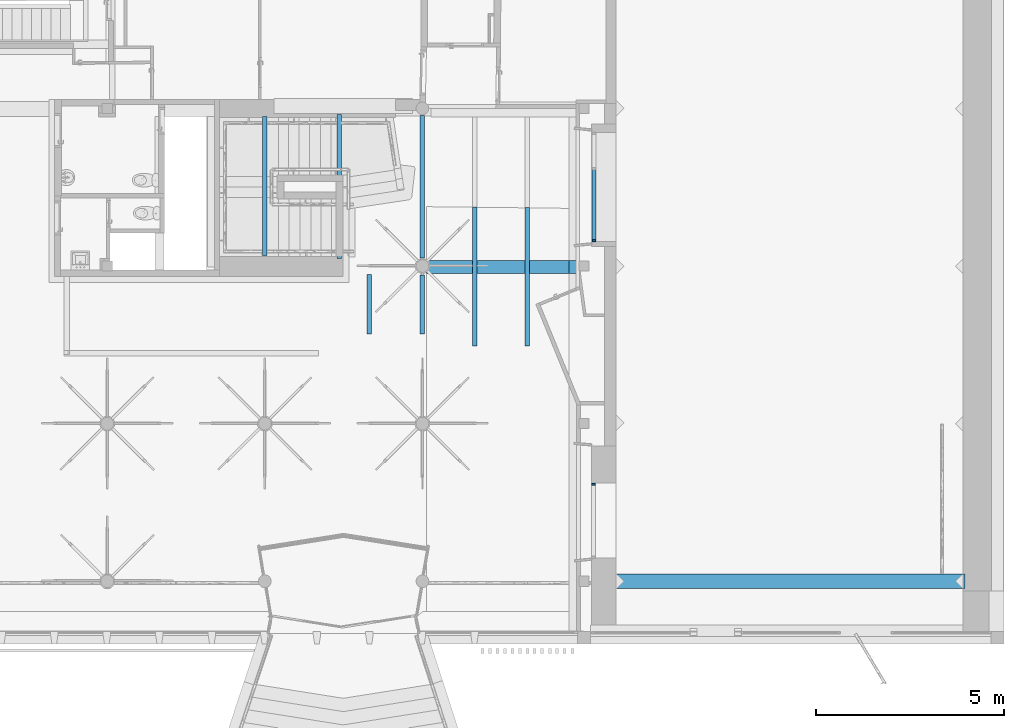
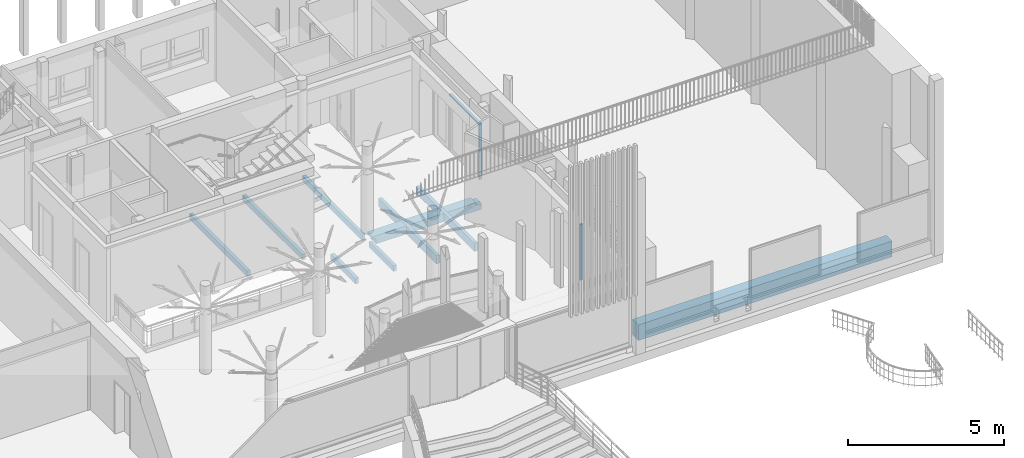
# One storey, part 7 of 65: 9 beams, 3 members, 2 elements without a shape of their own.
"""IFC4 building model written with IfcOpenShell, lengths in metres."""

from ifc_helpers import new_model, entity, si_unit, converted_unit, derived_unit, direction, frame, origin, place, context, subcontext, project, spatial, indexed_curve, outline, extrude, source, transform, mapped, material, type_object, type_shapes, element, aggregate, save


model = new_model("IFC4")

# Units and contexts
model_context = context("Model", 3, precision=1e-05, world=origin(), true_north=direction((6.12303176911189e-17, 1.0)))
body_context = subcontext(model_context, "Body", "Model", "MODEL_VIEW")
ifc_project = project(units=[si_unit("LENGTHUNIT", "METRE"), si_unit("AREAUNIT", "SQUARE_METRE"), si_unit("VOLUMEUNIT", "CUBIC_METRE"), converted_unit("PLANEANGLEUNIT", "DEGREE", entity("IfcRatioMeasure", 0.0174532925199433), si_unit("PLANEANGLEUNIT", "RADIAN"), dimensions=[0, 0, 0, 0, 0, 0, 0]), si_unit("MASSUNIT", "GRAM", prefix="KILO"), derived_unit("MASSDENSITYUNIT", [(si_unit("MASSUNIT", "GRAM", prefix="KILO"), 1), (si_unit("LENGTHUNIT", "METRE"), -3)]), derived_unit("MOMENTOFINERTIAUNIT", [(si_unit("LENGTHUNIT", "METRE"), 4)]), si_unit("TIMEUNIT", "SECOND"), si_unit("FREQUENCYUNIT", "HERTZ"), si_unit("THERMODYNAMICTEMPERATUREUNIT", "DEGREE_CELSIUS"), derived_unit("THERMALTRANSMITTANCEUNIT", [(si_unit("MASSUNIT", "GRAM", prefix="KILO"), 1), (si_unit("THERMODYNAMICTEMPERATUREUNIT", "KELVIN"), -1), (si_unit("TIMEUNIT", "SECOND"), -3)]), derived_unit("VOLUMETRICFLOWRATEUNIT", [(si_unit("LENGTHUNIT", "METRE"), 3), (si_unit("TIMEUNIT", "SECOND"), -1)]), si_unit("ELECTRICCURRENTUNIT", "AMPERE"), si_unit("ELECTRICVOLTAGEUNIT", "VOLT"), si_unit("POWERUNIT", "WATT"), si_unit("FORCEUNIT", "NEWTON", prefix="KILO"), si_unit("ILLUMINANCEUNIT", "LUX"), si_unit("LUMINOUSFLUXUNIT", "LUMEN"), si_unit("LUMINOUSINTENSITYUNIT", "CANDELA"), derived_unit("USERDEFINED", [(si_unit("MASSUNIT", "GRAM", prefix="KILO"), -1), (si_unit("LENGTHUNIT", "METRE"), -2), (si_unit("TIMEUNIT", "SECOND"), 3), (si_unit("LUMINOUSFLUXUNIT", "LUMEN"), 1)]), derived_unit("LINEARVELOCITYUNIT", [(si_unit("LENGTHUNIT", "METRE"), 1), (si_unit("TIMEUNIT", "SECOND"), -1)]), si_unit("PRESSUREUNIT", "PASCAL"), derived_unit("USERDEFINED", [(si_unit("LENGTHUNIT", "METRE"), -2), (si_unit("MASSUNIT", "GRAM", prefix="KILO"), 1), (si_unit("TIMEUNIT", "SECOND"), -2)]), derived_unit("LINEARFORCEUNIT", [(si_unit("MASSUNIT", "GRAM", prefix="KILO"), 1), (si_unit("LENGTHUNIT", "METRE"), 1), (si_unit("TIMEUNIT", "SECOND"), -2), (si_unit("LENGTHUNIT", "METRE"), -1)]), derived_unit("PLANARFORCEUNIT", [(si_unit("MASSUNIT", "GRAM", prefix="KILO"), 1), (si_unit("LENGTHUNIT", "METRE"), 1), (si_unit("TIMEUNIT", "SECOND"), -2), (si_unit("LENGTHUNIT", "METRE"), -2)])], contexts=[model_context])

# Site, building, storey
site_placement = place(None, origin())
site = spatial("IfcSite", under=ifc_project, at=site_placement, Name="Default", CompositionType="ELEMENT")
building_placement = place(site_placement, origin())
building = spatial("IfcBuilding", under=site, at=building_placement, Name="HOTEL CONSULAIRE BOULOGNE SUR MER", CompositionType="ELEMENT")
storey_placement = place(building_placement, origin())
storey = spatial("IfcBuildingStorey", under=building, at=storey_placement, Name="Niveau 0", CompositionType="ELEMENT", Elevation=1.31981936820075e-13)

# Curtain wall, member
curtain_wall_type = type_object("IfcCurtainWallType", Name="Mur-rideau:Simple panneau", PredefinedType="NOTDEFINED")
curtain_wall_1_placement = place(storey_placement, origin())
curtain_wall_1 = element("IfcCurtainWall", 1, at=curtain_wall_1_placement, inside=storey, type_object=curtain_wall_type, Name="Mur-rideau:Simple panneau", ObjectType="Mur-rideau:Simple panneau", PredefinedType="NOTDEFINED")
ifc_material_1 = material(Name="PVC, souple", Category="Plastique")
member_type_1 = type_object("IfcMemberType", Name="Meneau rectangulaire:100 x 25mm", PredefinedType="MULLION", material=ifc_material_1)
shared_shape_1 = source(origin(), body_context, "Body", "SweptSolid", [
    extrude(outline(indexed_curve([(-0.05, -0.025), (0.05, -0.025), (0.05, 0.025), (-0.05, 0.025), (-0.05, -0.025)], self_intersect=False)), frame((-0.025, 0.0, -2.18791504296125), z_axis=(0.0, 0.0, 1.0), x_axis=(0.0, -1.0, 0.0)), (0.0, 0.0, 1.0), 2.18791504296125),
])
type_shapes(member_type_1, [shared_shape_1])
member_1_placement = place(storey_placement, frame((11.7294778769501, -25.6029823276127, 0.0), z_axis=(0.0, 0.0, -1.0), x_axis=(0.0, 1.0, 0.0)))
member_1 = element("IfcMember", 2, at=member_1_placement, type_object=member_type_1, material=ifc_material_1, Name="Meneau rectangulaire:100 x 25mm", ObjectType="Meneau rectangulaire:100 x 25mm", PredefinedType="MULLION", context=body_context, shape_type="MappedRepresentation", body=[
    mapped(shared_shape_1, transform((0.0, 0.0, 0.0), scale=1.0)),
])
aggregate(curtain_wall_1, [member_1])

# Curtain wall, members
curtain_wall_2_placement = place(storey_placement, origin())
curtain_wall_2 = element("IfcCurtainWall", 3, at=curtain_wall_2_placement, inside=storey, type_object=curtain_wall_type, Name="Mur-rideau:Simple panneau", ObjectType="Mur-rideau:Simple panneau", PredefinedType="NOTDEFINED")
member_type_2 = type_object("IfcMemberType", Name="Meneau rectangulaire:100 x 25mm", PredefinedType="MULLION", material=ifc_material_1)
shared_shape_2 = source(origin(), body_context, "Body", "SweptSolid", [
    extrude(outline(indexed_curve([(-0.05, -0.025), (0.05, -0.025), (0.05, 0.025), (-0.05, 0.025), (-0.05, -0.025)], self_intersect=False)), frame((-0.025, 0.0, -2.13791504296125), z_axis=(0.0, 0.0, 1.0), x_axis=(0.0, -1.0, 0.0)), (0.0, 0.0, 1.0), 2.13791504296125),
])
type_shapes(member_type_2, [shared_shape_2])
member_2_placement = place(storey_placement, frame((11.7425810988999, -19.1673509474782, 0.0), z_axis=(0.0, 0.0, -1.0), x_axis=(0.0, -1.0, 0.0)))
member_2 = element("IfcMember", 4, at=member_2_placement, type_object=member_type_2, material=ifc_material_1, Name="Meneau rectangulaire:100 x 25mm", ObjectType="Meneau rectangulaire:100 x 25mm", PredefinedType="MULLION", context=body_context, shape_type="MappedRepresentation", body=[
    mapped(shared_shape_2, transform((0.0, 0.0, 0.0), scale=1.0)),
])
member_type_3 = type_object("IfcMemberType", Name="Meneau rectangulaire:100 x 25mm", PredefinedType="MULLION", material=ifc_material_1)
shared_shape_3 = source(origin(), body_context, "Body", "SweptSolid", [
    extrude(outline(indexed_curve([(-0.05, -0.025), (0.05, -0.025), (0.05, 0.025), (-0.05, 0.025), (-0.05, -0.025)], self_intersect=False)), frame((-0.025, 0.0, -1.94190756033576), z_axis=(0.0, 0.0, 1.0), x_axis=(0.0, -1.0, 0.0)), (0.0, 0.0, 1.0), 1.94190756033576),
])
type_shapes(member_type_3, [shared_shape_3])
member_3_placement = place(storey_placement, frame((11.7425810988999, -19.1673509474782, 2.1879150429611), z_axis=(0.0, -1.0, 0.0), x_axis=(0.0, 0.0, 1.0)))
member_3 = element("IfcMember", 5, at=member_3_placement, type_object=member_type_3, material=ifc_material_1, Name="Meneau rectangulaire:100 x 25mm", ObjectType="Meneau rectangulaire:100 x 25mm", PredefinedType="MULLION", context=body_context, shape_type="MappedRepresentation", body=[
    mapped(shared_shape_3, transform((0.0, 0.0, 0.0), scale=1.0)),
])
aggregate(curtain_wall_2, [member_2, member_3])

# Beams
ifc_material_2 = material(Name="Béton - Béton coulé sur place", Category="Béton")
beam_type_1 = type_object("IfcBeamType", Name="Poutre rectangulaire - Béton:380X610", PredefinedType="BEAM", material=ifc_material_2)
shared_shape_4 = source(origin(), body_context, "Body", "SweptSolid", [
    extrude(outline(indexed_curve([(-0.305000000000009, -0.189999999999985), (0.304999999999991, -0.189999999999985), (0.30500000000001, 0.190000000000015), (-0.30499999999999, 0.190000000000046), (-0.305000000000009, -0.189999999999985)], self_intersect=False)), frame((12.2469436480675, -28.2138231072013, -0.574999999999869), z_axis=(1.0, 0.0, 0.0), x_axis=(0.0, 0.0, -1.0)), (0.0, 0.0, 1.0), 9.3854),
])
type_shapes(beam_type_1, [shared_shape_4])
beam_1_placement = place(storey_placement, origin())
element("IfcBeam", 6, at=beam_1_placement, inside=storey, type_object=beam_type_1, material=ifc_material_2, Name="Poutre rectangulaire - Béton:380X610", ObjectType="Poutre rectangulaire - Béton:380X610", PredefinedType="BEAM", context=body_context, shape_type="MappedRepresentation", body=[
    mapped(shared_shape_4, transform((0.0, 0.0, 0.0), scale=1.0)),
])
beam_type_2 = type_object("IfcBeamType", Name="Poutre rectangulaire - Béton:120X220", PredefinedType="BEAM", material=ifc_material_2)
shared_shape_5 = source(origin(), body_context, "Body", "SweptSolid", [
    extrude(outline(indexed_curve([(-0.0599999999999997, -0.11), (0.0600000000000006, -0.11), (0.0600000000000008, 0.11), (-0.0600000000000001, 0.11), (-0.0599999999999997, -0.11)], self_intersect=False)), frame((2.96184106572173, -19.52952166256, -0.37999999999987), z_axis=(0.0, 1.0, 0.0), x_axis=(-1.0, 0.0, 0.0)), (0.0, 0.0, 1.0), 3.70382761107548),
])
type_shapes(beam_type_2, [shared_shape_5])
beam_2_placement = place(storey_placement, origin())
element("IfcBeam", 7, at=beam_2_placement, inside=storey, type_object=beam_type_2, material=ifc_material_2, Name="Poutre rectangulaire - Béton:120X220", ObjectType="Poutre rectangulaire - Béton:120X220", PredefinedType="BEAM", context=body_context, shape_type="MappedRepresentation", body=[
    mapped(shared_shape_5, transform((0.0, 0.0, 0.0), scale=1.0)),
])
beam_type_3 = type_object("IfcBeamType", Name="Poutre rectangulaire - Béton:120X220", PredefinedType="BEAM", material=ifc_material_2)
shared_shape_6 = source(origin(), body_context, "Body", "SweptSolid", [
    extrude(outline(indexed_curve([(-0.0599999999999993, -0.11), (0.0600000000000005, -0.11), (0.0600000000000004, 0.11), (-0.0600000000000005, 0.11), (-0.0599999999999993, -0.11)], self_intersect=False)), frame((7.15913720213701, -21.6229888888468, -0.37999999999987), z_axis=(0.0, 1.0, 0.0), x_axis=(-1.0, 0.0, 0.0)), (0.0, 0.0, 1.0), 1.56878886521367),
])
type_shapes(beam_type_3, [shared_shape_6])
beam_3_placement = place(storey_placement, origin())
element("IfcBeam", 8, at=beam_3_placement, inside=storey, type_object=beam_type_3, material=ifc_material_2, Name="Poutre rectangulaire - Béton:120X220", ObjectType="Poutre rectangulaire - Béton:120X220", PredefinedType="BEAM", context=body_context, shape_type="MappedRepresentation", body=[
    mapped(shared_shape_6, transform((0.0, 0.0, 0.0), scale=1.0)),
])
beam_type_4 = type_object("IfcBeamType", Name="Poutre rectangulaire - Béton:120X320", PredefinedType="BEAM", material=ifc_material_2)
shared_shape_7 = source(origin(), body_context, "Body", "SweptSolid", [
    extrude(outline(indexed_curve([(-0.0600000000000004, -0.16), (0.0599999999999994, -0.16), (0.0599999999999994, 0.16), (-0.0600000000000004, 0.16), (-0.0600000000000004, -0.16)], self_intersect=False)), frame((8.56702168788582, -21.9517034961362, -0.32999999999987), z_axis=(0.0, 1.0, 0.0), x_axis=(-1.0, 0.0, 0.0)), (0.0, 0.0, 1.0), 3.7154),
])
type_shapes(beam_type_4, [shared_shape_7])
beam_4_placement = place(storey_placement, origin())
element("IfcBeam", 9, at=beam_4_placement, inside=storey, type_object=beam_type_4, material=ifc_material_2, Name="Poutre rectangulaire - Béton:120X320", ObjectType="Poutre rectangulaire - Béton:120X320", PredefinedType="BEAM", context=body_context, shape_type="MappedRepresentation", body=[
    mapped(shared_shape_7, transform((0.0, 0.0, 0.0), scale=1.0)),
])
beam_type_5 = type_object("IfcBeamType", Name="Poutre rectangulaire - Béton:120X320", PredefinedType="BEAM", material=ifc_material_2)
shared_shape_8 = source(origin(), body_context, "Body", "SweptSolid", [
    extrude(outline(indexed_curve([(-0.0600000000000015, -0.16), (0.0599999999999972, -0.16), (0.0599999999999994, 0.16), (-0.0600000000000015, 0.16), (-0.0600000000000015, -0.16)], self_intersect=False)), frame((9.96802168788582, -21.9514418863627, -0.32999999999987), z_axis=(0.0, 1.0, 0.0), x_axis=(-1.0, 0.0, 0.0)), (0.0, 0.0, 1.0), 3.6984),
])
type_shapes(beam_type_5, [shared_shape_8])
beam_5_placement = place(storey_placement, origin())
element("IfcBeam", 10, at=beam_5_placement, inside=storey, type_object=beam_type_5, material=ifc_material_2, Name="Poutre rectangulaire - Béton:120X320", ObjectType="Poutre rectangulaire - Béton:120X320", PredefinedType="BEAM", context=body_context, shape_type="MappedRepresentation", body=[
    mapped(shared_shape_8, transform((0.0, 0.0, 0.0), scale=1.0)),
])
beam_type_6 = type_object("IfcBeamType", Name="Poutre rectangulaire - Béton:120X220", PredefinedType="BEAM", material=ifc_material_2)
shared_shape_9 = source(origin(), body_context, "Body", "SweptSolid", [
    extrude(outline(indexed_curve([(-0.0600000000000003, -0.11), (0.0600000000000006, -0.11), (0.0599999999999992, 0.11), (-0.0600000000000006, 0.11), (-0.0600000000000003, -0.11)], self_intersect=False)), frame((4.95474844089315, -19.6164331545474, -0.37999999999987), z_axis=(0.0, 1.0, 0.0), x_axis=(-1.0, 0.0, 0.0)), (0.0, 0.0, 1.0), 3.8334),
])
type_shapes(beam_type_6, [shared_shape_9])
beam_6_placement = place(storey_placement, origin())
element("IfcBeam", 11, at=beam_6_placement, inside=storey, type_object=beam_type_6, material=ifc_material_2, Name="Poutre rectangulaire - Béton:120X220", ObjectType="Poutre rectangulaire - Béton:120X220", PredefinedType="BEAM", context=body_context, shape_type="MappedRepresentation", body=[
    mapped(shared_shape_9, transform((0.0, 0.0, 0.0), scale=1.0)),
])
beam_type_7 = type_object("IfcBeamType", Name="Poutre rectangulaire - Béton:120X220", PredefinedType="BEAM", material=ifc_material_2)
shared_shape_10 = source(origin(), body_context, "Body", "SweptSolid", [
    extrude(outline(indexed_curve([(-0.0599999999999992, -0.11), (0.0600000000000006, -0.11), (0.0600000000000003, 0.11), (-0.0599999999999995, 0.11), (-0.0599999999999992, -0.11)], self_intersect=False)), frame((7.15913720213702, -19.6042000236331, -0.37999999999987), z_axis=(0.0, 1.0, 0.0), x_axis=(-1.0, 0.0, 0.0)), (0.0, 0.0, 1.0), 3.80510246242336),
])
type_shapes(beam_type_7, [shared_shape_10])
beam_7_placement = place(storey_placement, origin())
element("IfcBeam", 12, at=beam_7_placement, inside=storey, type_object=beam_type_7, material=ifc_material_2, Name="Poutre rectangulaire - Béton:120X220", ObjectType="Poutre rectangulaire - Béton:120X220", PredefinedType="BEAM", context=body_context, shape_type="MappedRepresentation", body=[
    mapped(shared_shape_10, transform((0.0, 0.0, 0.0), scale=1.0)),
])
beam_type_8 = type_object("IfcBeamType", Name="Poutre rectangulaire - Béton:120X220", PredefinedType="BEAM", material=ifc_material_2)
shared_shape_11 = source(origin(), body_context, "Body", "SweptSolid", [
    extrude(outline(indexed_curve([(-0.0600000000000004, -0.11), (0.0599999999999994, -0.11), (0.0599999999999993, 0.11), (-0.0600000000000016, 0.11), (-0.0600000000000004, -0.11)], self_intersect=False)), frame((5.757773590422, -21.6229888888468, -0.37999999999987), z_axis=(0.0, 1.0, 0.0), x_axis=(-1.0, 0.0, 0.0)), (0.0, 0.0, 1.0), 1.5814),
])
type_shapes(beam_type_8, [shared_shape_11])
beam_8_placement = place(storey_placement, origin())
element("IfcBeam", 13, at=beam_8_placement, inside=storey, type_object=beam_type_8, material=ifc_material_2, Name="Poutre rectangulaire - Béton:120X220", ObjectType="Poutre rectangulaire - Béton:120X220", PredefinedType="BEAM", context=body_context, shape_type="MappedRepresentation", body=[
    mapped(shared_shape_11, transform((0.0, 0.0, 0.0), scale=1.0)),
])
beam_type_9 = type_object("IfcBeamType", Name="Poutre rectangulaire - Béton:350x320", PredefinedType="BEAM", material=ifc_material_2)
shared_shape_12 = source(origin(), body_context, "Body", "SweptSolid", [
    extrude(outline(indexed_curve([(-0.382070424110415, -0.144444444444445), (-0.242038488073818, -0.144444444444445), (-0.172038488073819, -0.144444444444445), (0.882166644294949, -0.144444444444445), (0.882166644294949, 0.175555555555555), (-0.172038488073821, 0.175555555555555), (-0.172038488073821, 0.0755555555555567), (-0.242038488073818, 0.0755555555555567), (-0.382070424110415, 0.0755555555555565), (-0.382070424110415, -0.144444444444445)], self_intersect=False)), frame((3.63805113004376, 0.0, 0.144444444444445), z_axis=(0.0, 1.0, 0.0), x_axis=(-1.0, 0.0, 0.0)), (0.0, 0.0, 1.0), 0.349999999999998),
    extrude(outline(indexed_curve([(-0.174999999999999, -0.16), (0.174999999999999, -0.16), (0.174999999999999, 0.16), (-0.174999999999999, 0.16), (-0.174999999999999, -0.16)], self_intersect=False)), frame((1.35488448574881, 0.175000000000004, 0.16), z_axis=(1.0, 0.0, 0.0), x_axis=(0.0, 1.0, 0.0)), (0.0, 0.0, 1.0), 1.281),
    extrude(outline(indexed_curve([(-0.783507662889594, -0.18), (0.332130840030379, -0.18), (0.332130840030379, 0.0400000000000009), (0.451376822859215, 0.0400000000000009), (0.451376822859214, 0.139999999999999), (-0.783507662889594, 0.14), (-0.783507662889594, -0.18)], self_intersect=False)), frame((0.451376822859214, 0.0, 0.180000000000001), z_axis=(0.0, 1.0, 0.0), x_axis=(-1.0, 0.0, 0.0)), (0.0, 0.0, 1.0), 0.349999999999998),
])
type_shapes(beam_type_9, [shared_shape_12])
beam_9_placement = place(storey_placement, frame((7.27213720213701, -20.0152245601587, -0.490000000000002)))
element("IfcBeam", 14, at=beam_9_placement, inside=storey, type_object=beam_type_9, material=ifc_material_2, Name="Poutre rectangulaire - Béton:350x320", ObjectType="Poutre rectangulaire - Béton:350x320", PredefinedType="BEAM", context=body_context, shape_type="MappedRepresentation", body=[
    mapped(shared_shape_12, transform((0.0, 0.0, 0.0), scale=1.0)),
])

save(model, "model.ifc")
